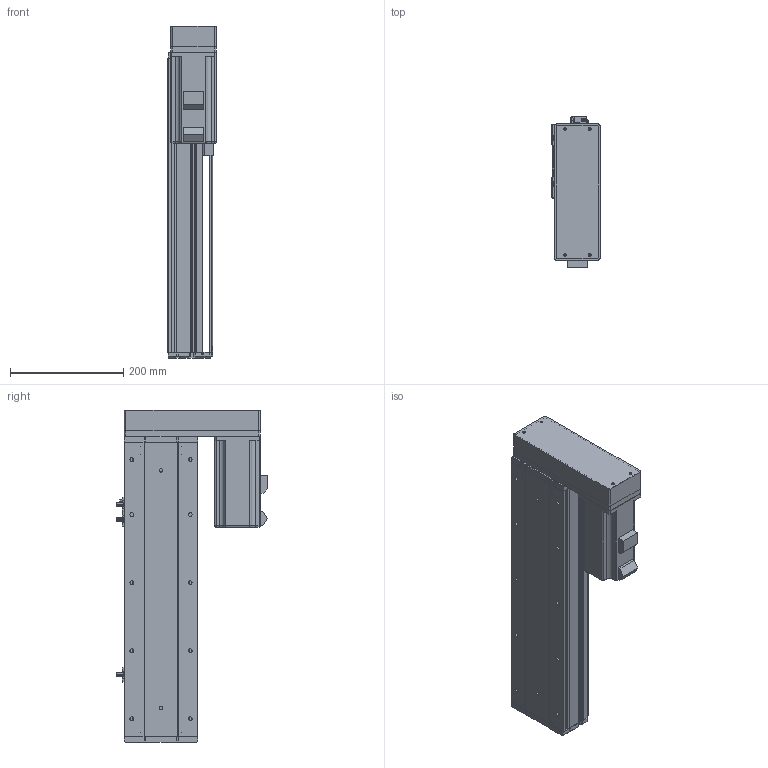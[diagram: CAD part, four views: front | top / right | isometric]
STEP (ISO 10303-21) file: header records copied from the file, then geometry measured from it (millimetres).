
FILE_DESCRIPTION (( 'STEP AP214' ), '1' );
FILE_NAME ('KSD130-P2010-S300-MR-CM.STEP', '2019-09-17T07:30:02', ( '微软用户' ), ( '微软中国' ), 'SwSTEP 2.0', 'SolidWorks 2014', '' );
FILE_SCHEMA (( 'AUTOMOTIVE_DESIGN' ));
Length unit declared in the file: millimetre
Products named in the file (11): 130宽模组保护罩左右折; 侂狟750W侜督; 130宽模组马达安装板连板左右折丝杆; 覜茼え100遵圉猾敕; 130宽盖板半封闭丝杠-300行程; 130宽滚珠丝杆安装板半封闭-20丝杠; 130宽马达安装板半封闭; 130遵傷裔圉猾敕; 130宽底板半封闭丝杠-300行程; KSD130-P2010-S300-MR-CM; U倰嫖萇EEㄜSX672
Assembly tree (12 placements, depth 2):
  KSD130-P2010-S300-MR-CM
    130宽底板半封闭丝杠-300行程
    130遵傷裔圉猾敕
    130宽马达安装板半封闭
    130宽滚珠丝杆安装板半封闭-20丝杠
    130宽盖板半封闭丝杠-300行程
    覜茼え100遵圉猾敕
    130宽模组马达安装板连板左右折丝杆
    侂狟750W侜督
    130宽模组保护罩左右折
    U倰嫖萇EEㄜSX672  x3
Bounding box: 85 x 266.7 x 585.5 mm (x, y, z)
Volume: 3035502.2 mm3; surface area: 754015.8 mm2
Topology: 12 solids, 12 shells, 1258 faces, 3496 edges, 2228 vertices
Faces by surface type: cylinder 567, plane 565, cone 110, torus 8, sphere 8
Entity records: 39269 total; most frequent: CARTESIAN_POINT 7121, DIRECTION 5944, ORIENTED_EDGE 5716, EDGE_CURVE 2858, AXIS2_PLACEMENT_3D 2127, VERTEX_POINT 1852, LINE 1690, VECTOR 1690
